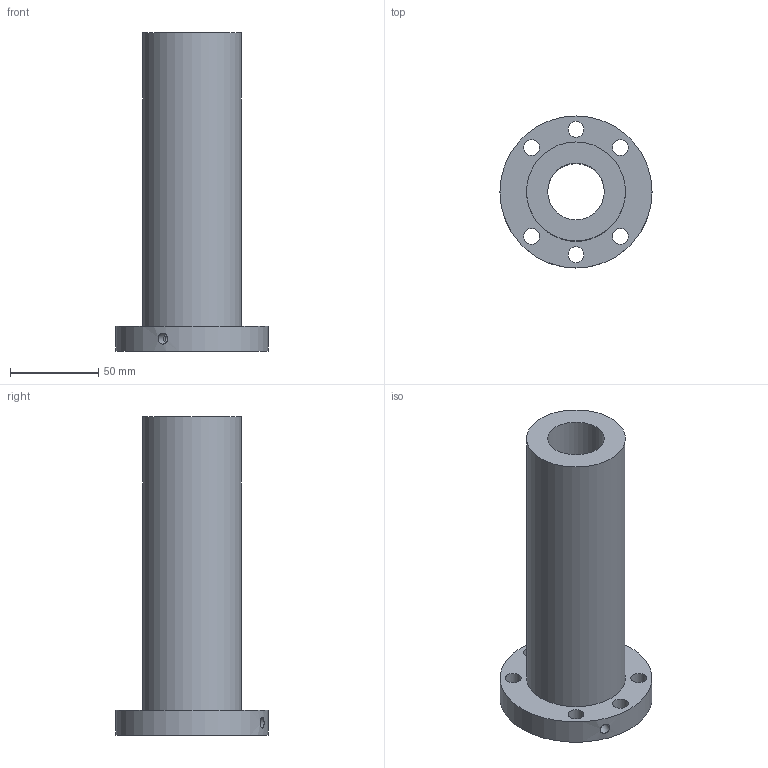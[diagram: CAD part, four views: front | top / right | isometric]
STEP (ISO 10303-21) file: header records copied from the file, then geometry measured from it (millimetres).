
FILE_DESCRIPTION(/* description */ (''),/* implementation_level */ '2;1');
FILE_NAME(/* name */ '32-12K5_4763',/* time_stamp */ '2007-10-15T12:54:00+08:00',/* author */ (''),/* organization */ (''),/* preprocessor_version */ 'ST-DEVELOPER v11',/* originating_system */ 'UGS - NX 5.0',/* authorisation */ '');
FILE_SCHEMA (('CONFIG_CONTROL_DESIGN'));
Length unit declared in the file: millimetre
Products named in the file (1): 32-12K5_4763
Bounding box: 86 x 86 x 180 mm (x, y, z)
Volume: 339609.9 mm3; surface area: 63067.3 mm2
Topology: 1 solids, 1 shells, 15 faces, 34 edges, 23 vertices
Faces by surface type: cylinder 11, plane 4
Full cylindrical faces by diameter (mm): 4 x1, 6 x1, 9 x6, 32 x1, 56 x1, 86 x1
Entity records: 600 total; most frequent: CARTESIAN_POINT 174, DIRECTION 72, FACE_BOUND 44, EDGE_LOOP 44, ORIENTED_EDGE 44, AXIS2_PLACEMENT_3D 36, VERTEX_POINT 22, EDGE_CURVE 22
